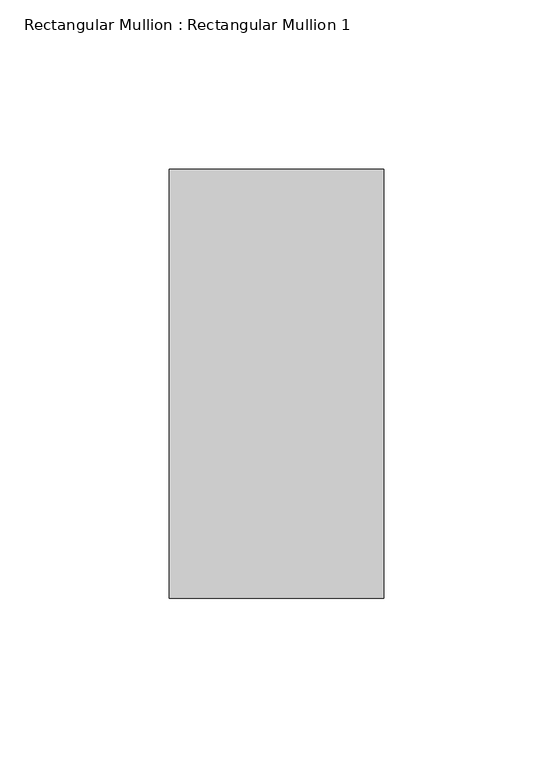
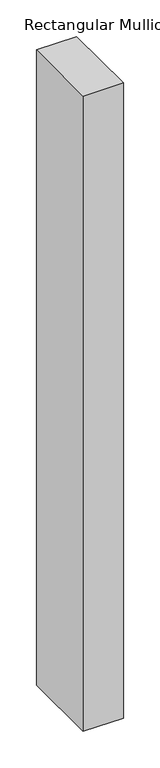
"""IFC4 building model written with IfcOpenShell, lengths in millimetres: member geometry, Rectangular Mullion : Rectangular Mullion 1."""

from ifc_helpers import new_model, si_unit, frame, origin, place, context, project, spatial, polyline, outline, extrude, source, transform, mapped, element, save


def rectangular_mullion_rectangular_mullion_1_b1fe1b6d(model_context):
    return source(origin(), model_context, "Body", "SweptSolid", [
        extrude(outline(polyline([(0.0, 63.5), (0.0, -63.5), (-63.5, -63.5), (-63.5, 63.5), (0.0, 63.5)])), frame((0.0, 0.0, -1057.7285716), z_axis=(0.0, 0.0, 1.0), x_axis=(1.0, 0.0, 0.0)), (0.0, 0.0, 1.0), 1057.7285716),
    ])


if __name__ == "__main__":
    model = new_model("IFC4")
    model_context = context("Model", 3, world=origin())
    ifc_project = project(units=[si_unit("LENGTHUNIT", "METRE", prefix="MILLI")], contexts=[model_context])
    site = spatial("IfcSite", under=ifc_project)
    building = spatial("IfcBuilding", under=site)
    placement = place(None, origin())
    rectangular_mullion_rectangular_mullion_1_shape = rectangular_mullion_rectangular_mullion_1_b1fe1b6d(model_context)
    element("IfcMember", 1, ObjectType="Rectangular Mullion : Rectangular Mullion 1", at=placement, inside=building, context=model_context, shape_type="MappedRepresentation", body=[
        mapped(rectangular_mullion_rectangular_mullion_1_shape, transform((0.0, 0.0, 0.0), x_axis=(1.0, 0.0, 0.0), y_axis=(0.0, 1.0, 0.0), z_axis=(0.0, 0.0, 1.0))),
    ])
    save(model, "model.ifc")
